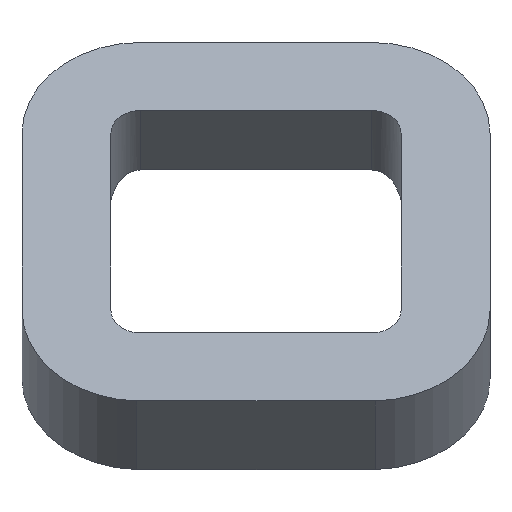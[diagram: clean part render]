
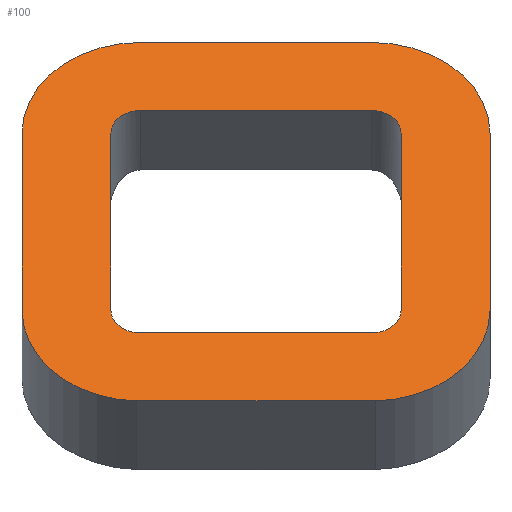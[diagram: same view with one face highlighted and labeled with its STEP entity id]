
A CAD part, front view. The second image highlights one B-rep face of the part: STEP entity #100.
In plain terms, the highlighted planar face has unit normal (0, -0.766, 0.643).
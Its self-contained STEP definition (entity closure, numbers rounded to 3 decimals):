
#100 = ADVANCED_FACE( '', ( #196, #197 ), #198, .F. );
#196 = FACE_BOUND( '', #284, .T. );
#197 = FACE_OUTER_BOUND( '', #285, .T. );
#198 = PLANE( '', #286 );
#284 = EDGE_LOOP( '', ( #445, #446, #447, #448, #449, #450, #451, #452 ) );
#285 = EDGE_LOOP( '', ( #453, #454, #455, #456, #457, #458, #459, #460 ) );
#286 = AXIS2_PLACEMENT_3D( '', #461, #462, #463 );
#445 = ORIENTED_EDGE( '', *, *, #533, .T. );
#446 = ORIENTED_EDGE( '', *, *, #579, .T. );
#447 = ORIENTED_EDGE( '', *, *, #585, .T. );
#448 = ORIENTED_EDGE( '', *, *, #586, .T. );
#449 = ORIENTED_EDGE( '', *, *, #587, .T. );
#450 = ORIENTED_EDGE( '', *, *, #528, .T. );
#451 = ORIENTED_EDGE( '', *, *, #538, .T. );
#452 = ORIENTED_EDGE( '', *, *, #588, .T. );
#453 = ORIENTED_EDGE( '', *, *, #575, .F. );
#454 = ORIENTED_EDGE( '', *, *, #543, .F. );
#455 = ORIENTED_EDGE( '', *, *, #589, .F. );
#456 = ORIENTED_EDGE( '', *, *, #563, .F. );
#457 = ORIENTED_EDGE( '', *, *, #547, .F. );
#458 = ORIENTED_EDGE( '', *, *, #524, .F. );
#459 = ORIENTED_EDGE( '', *, *, #590, .F. );
#460 = ORIENTED_EDGE( '', *, *, #582, .F. );
#461 = CARTESIAN_POINT( '', ( 52., -1.148, 10.134 ) );
#462 = DIRECTION( '', ( 0., 0.766, -0.643 ) );
#463 = DIRECTION( '', ( 0., 0.643, 0.766 ) );
#524 = EDGE_CURVE( '', #608, #601, #610, .T. );
#528 = EDGE_CURVE( '', #617, #615, #618, .T. );
#533 = EDGE_CURVE( '', #626, #624, #627, .T. );
#538 = EDGE_CURVE( '', #615, #632, #634, .T. );
#543 = EDGE_CURVE( '', #641, #636, #643, .T. );
#547 = EDGE_CURVE( '', #601, #645, #649, .T. );
#563 = EDGE_CURVE( '', #645, #675, #676, .T. );
#575 = EDGE_CURVE( '', #636, #691, #692, .T. );
#579 = EDGE_CURVE( '', #624, #695, #697, .T. );
#582 = EDGE_CURVE( '', #691, #699, #701, .T. );
#585 = EDGE_CURVE( '', #695, #704, #705, .T. );
#586 = EDGE_CURVE( '', #704, #706, #707, .T. );
#587 = EDGE_CURVE( '', #706, #617, #708, .T. );
#588 = EDGE_CURVE( '', #632, #626, #709, .T. );
#589 = EDGE_CURVE( '', #675, #641, #710, .T. );
#590 = EDGE_CURVE( '', #699, #608, #711, .T. );
#601 = VERTEX_POINT( '', #722 );
#608 = VERTEX_POINT( '', #730 );
#610 = CIRCLE( '', #733, 10. );
#615 = VERTEX_POINT( '', #738 );
#617 = VERTEX_POINT( '', #741 );
#618 = CIRCLE( '', #742, 2.5 );
#624 = VERTEX_POINT( '', #750 );
#626 = VERTEX_POINT( '', #753 );
#627 = LINE( '', #754, #755 );
#632 = VERTEX_POINT( '', #762 );
#634 = LINE( '', #765, #766 );
#636 = VERTEX_POINT( '', #768 );
#641 = VERTEX_POINT( '', #774 );
#643 = CIRCLE( '', #777, 10. );
#645 = VERTEX_POINT( '', #779 );
#649 = LINE( '', #785, #786 );
#675 = VERTEX_POINT( '', #815 );
#676 = CIRCLE( '', #816, 10. );
#691 = VERTEX_POINT( '', #836 );
#692 = LINE( '', #837, #838 );
#695 = VERTEX_POINT( '', #842 );
#697 = CIRCLE( '', #845, 2.5 );
#699 = VERTEX_POINT( '', #847 );
#701 = CIRCLE( '', #850, 10. );
#704 = VERTEX_POINT( '', #853 );
#705 = LINE( '', #854, #855 );
#706 = VERTEX_POINT( '', #856 );
#707 = CIRCLE( '', #857, 2.5 );
#708 = LINE( '', #858, #859 );
#709 = CIRCLE( '', #860, 2.5 );
#710 = LINE( '', #861, #862 );
#711 = LINE( '', #863, #864 );
#722 = CARTESIAN_POINT( '', ( 6.25, -1.151, 10.13 ) );
#730 = CARTESIAN_POINT( '', ( -3.75, -7.579, 2.469 ) );
#733 = AXIS2_PLACEMENT_3D( '', #884, #885, #886 );
#738 = CARTESIAN_POINT( '', ( 25.75, -21.72, -14.384 ) );
#741 = CARTESIAN_POINT( '', ( 28.25, -20.113, -12.469 ) );
#742 = AXIS2_PLACEMENT_3D( '', #891, #892, #893 );
#750 = CARTESIAN_POINT( '', ( 3.75, -7.579, 2.469 ) );
#753 = CARTESIAN_POINT( '', ( 3.75, -20.113, -12.469 ) );
#754 = CARTESIAN_POINT( '', ( 3.75, -7.579, 2.469 ) );
#755 = VECTOR( '', #897, 1000. );
#762 = CARTESIAN_POINT( '', ( 6.25, -21.72, -14.384 ) );
#765 = CARTESIAN_POINT( '', ( 6.25, -21.72, -14.384 ) );
#766 = VECTOR( '', #901, 1000. );
#768 = CARTESIAN_POINT( '', ( 26.063, -26.538, -20.125 ) );
#774 = CARTESIAN_POINT( '', ( 35.75, -20.113, -12.469 ) );
#777 = AXIS2_PLACEMENT_3D( '', #907, #908, #909 );
#779 = CARTESIAN_POINT( '', ( 25.75, -1.151, 10.13 ) );
#785 = CARTESIAN_POINT( '', ( 25.75, -1.151, 10.13 ) );
#786 = VECTOR( '', #912, 1000. );
#815 = CARTESIAN_POINT( '', ( 35.75, -7.579, 2.469 ) );
#816 = AXIS2_PLACEMENT_3D( '', #940, #941, #942 );
#836 = CARTESIAN_POINT( '', ( 5.937, -26.538, -20.125 ) );
#837 = CARTESIAN_POINT( '', ( 52., -26.538, -20.125 ) );
#838 = VECTOR( '', #960, 1000. );
#842 = CARTESIAN_POINT( '', ( 6.25, -5.972, 4.384 ) );
#845 = AXIS2_PLACEMENT_3D( '', #963, #964, #965 );
#847 = CARTESIAN_POINT( '', ( -3.75, -20.113, -12.469 ) );
#850 = AXIS2_PLACEMENT_3D( '', #967, #968, #969 );
#853 = CARTESIAN_POINT( '', ( 25.75, -5.972, 4.384 ) );
#854 = CARTESIAN_POINT( '', ( 25.75, -5.972, 4.384 ) );
#855 = VECTOR( '', #970, 1000. );
#856 = CARTESIAN_POINT( '', ( 28.25, -7.579, 2.469 ) );
#857 = AXIS2_PLACEMENT_3D( '', #971, #972, #973 );
#858 = CARTESIAN_POINT( '', ( 28.25, -20.113, -12.469 ) );
#859 = VECTOR( '', #974, 1000. );
#860 = AXIS2_PLACEMENT_3D( '', #975, #976, #977 );
#861 = CARTESIAN_POINT( '', ( 35.75, -20.113, -12.469 ) );
#862 = VECTOR( '', #978, 1000. );
#863 = CARTESIAN_POINT( '', ( -3.75, -7.579, 2.469 ) );
#864 = VECTOR( '', #979, 1000. );
#884 = CARTESIAN_POINT( '', ( 6.25, -7.579, 2.469 ) );
#885 = DIRECTION( '', ( 0., 0.766, -0.643 ) );
#886 = DIRECTION( '', ( 0., 0.643, 0.766 ) );
#891 = CARTESIAN_POINT( '', ( 25.75, -20.113, -12.469 ) );
#892 = DIRECTION( '', ( 0., 0.766, -0.643 ) );
#893 = DIRECTION( '', ( 0., 0.643, 0.766 ) );
#897 = DIRECTION( '', ( 0., 0.643, 0.766 ) );
#901 = DIRECTION( '', ( -1., 0., 0. ) );
#907 = CARTESIAN_POINT( '', ( 25.75, -20.113, -12.469 ) );
#908 = DIRECTION( '', ( 0., 0.766, -0.643 ) );
#909 = DIRECTION( '', ( 0., 0.643, 0.766 ) );
#912 = DIRECTION( '', ( 1., 0., 0. ) );
#940 = CARTESIAN_POINT( '', ( 25.75, -7.579, 2.469 ) );
#941 = DIRECTION( '', ( 0., 0.766, -0.643 ) );
#942 = DIRECTION( '', ( 0., 0.643, 0.766 ) );
#960 = DIRECTION( '', ( -1., 0., 0. ) );
#963 = CARTESIAN_POINT( '', ( 6.25, -7.579, 2.469 ) );
#964 = DIRECTION( '', ( 0., 0.766, -0.643 ) );
#965 = DIRECTION( '', ( 0., 0.643, 0.766 ) );
#967 = CARTESIAN_POINT( '', ( 6.25, -20.113, -12.469 ) );
#968 = DIRECTION( '', ( 0., 0.766, -0.643 ) );
#969 = DIRECTION( '', ( 0., 0.643, 0.766 ) );
#970 = DIRECTION( '', ( 1., 0., 0. ) );
#971 = CARTESIAN_POINT( '', ( 25.75, -7.579, 2.469 ) );
#972 = DIRECTION( '', ( 0., 0.766, -0.643 ) );
#973 = DIRECTION( '', ( 0., 0.643, 0.766 ) );
#974 = DIRECTION( '', ( 0., -0.643, -0.766 ) );
#975 = CARTESIAN_POINT( '', ( 6.25, -20.113, -12.469 ) );
#976 = DIRECTION( '', ( 0., 0.766, -0.643 ) );
#977 = DIRECTION( '', ( 0., 0.643, 0.766 ) );
#978 = DIRECTION( '', ( 0., -0.643, -0.766 ) );
#979 = DIRECTION( '', ( 0., 0.643, 0.766 ) );
